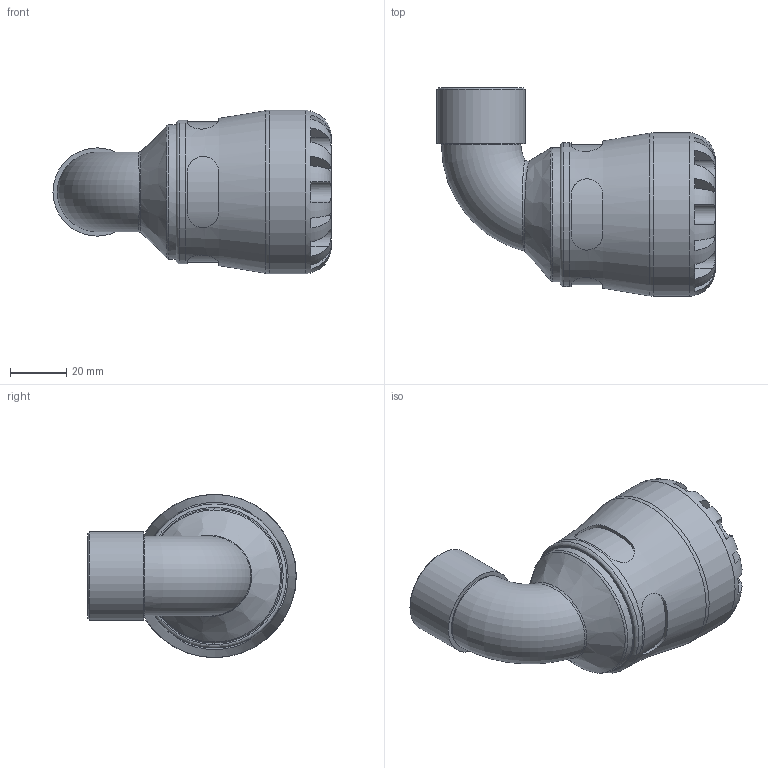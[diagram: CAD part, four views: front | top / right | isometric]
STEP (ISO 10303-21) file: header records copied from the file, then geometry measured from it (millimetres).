
FILE_DESCRIPTION(/* description */ ('PLASSON 90° ELBOW WITH THREADED FEMALE OFFTAKE 32X3/4" SERIES 1'),/* implementation_level */ '2;1');
FILE_NAME(/* name */ 'C:\Dropbox\KIMPROJECTS-Inventor\99-16-3568-Processing\S1\1015\101500032007_191500032007.ipt.stp',/* time_stamp */ '2017-07-30T11:51:58+03:00',/* author */ ('KIM'),/* organization */ (''),/* preprocessor_version */ 'ST-DEVELOPER v15.6',/* originating_system */ 'Autodesk Inventor 2015',/* authorisation */ '');
FILE_SCHEMA (('AUTOMOTIVE_DESIGN { 1 0 10303 214 3 1 1 }'));
Length unit declared in the file: millimetre
Products named in the file (1): 101500032007_191500032007
Bounding box: 98.68 x 74 x 58 mm (x, y, z)
Volume: 106679.3 mm3; surface area: 30012.2 mm2
Topology: 1 solids, 1 shells, 110 faces, 266 edges, 165 vertices
Faces by surface type: plane 62, cylinder 37, torus 6, bspline 3, cone 2
Full cylindrical faces by diameter (mm): 21.705 x2, 24.117 x1, 28.217 x1, 31.352 x1, 32 x1, 47.56 x1, 51.04 x1, 58 x1
Entity records: 4206 total; most frequent: CARTESIAN_POINT 1776, ORIENTED_EDGE 488, DIRECTION 487, EDGE_CURVE 244, AXIS2_PLACEMENT_3D 203, VERTEX_POINT 161, EDGE_LOOP 137, FACE_OUTER_BOUND 110
